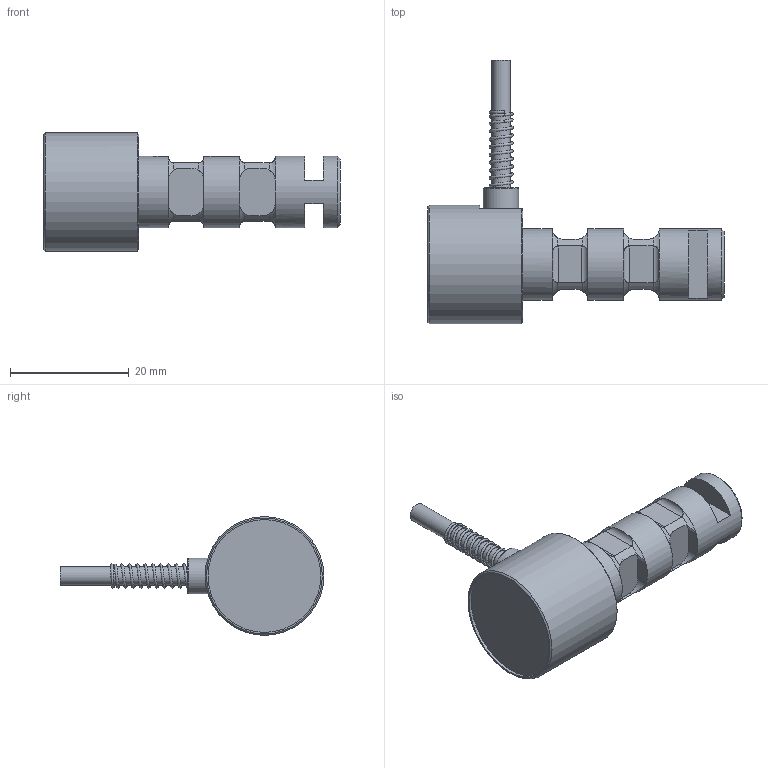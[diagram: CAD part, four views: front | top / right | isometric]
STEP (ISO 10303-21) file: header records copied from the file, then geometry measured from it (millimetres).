
FILE_DESCRIPTION(/* description */ ('Alibre Inc.'),/* implementation_level */ '2;1');
FILE_NAME(/* name */ 'export0',/* time_stamp */ '2016-11-23T13:31:25+01:00',/* author */ (''),/* organization */ (''),/* preprocessor_version */ 'ST-DEVELOPER v14',/* originating_system */ 'Alibre',/* authorisation */ '');
FILE_SCHEMA (('CONFIG_CONTROL_DESIGN'));
Length unit declared in the file: centimetre
Products named in the file (6): ID_1
Bounding box: 50 x 44.4 x 20 mm (x, y, z)
Volume: 8234.9 mm3; surface area: 3923.8 mm2
Topology: 4 solids, 4 shells, 134 faces, 312 edges, 190 vertices
Faces by surface type: plane 53, cylinder 44, torus 18, bspline 12, cone 7
Full cylindrical faces by diameter (mm): 3.15 x1, 3.3 x1, 4.2 x1, 5 x1, 5.1 x1, 6 x1, 12 x3, 19 x1, 20 x1
Entity records: 18807 total; most frequent: CARTESIAN_POINT 15717, ORIENTED_EDGE 572, DIRECTION 389, EDGE_CURVE 286, VERTEX_POINT 184, AXIS2_PLACEMENT_3D 178, EDGE_LOOP 160, FACE_BOUND 160
